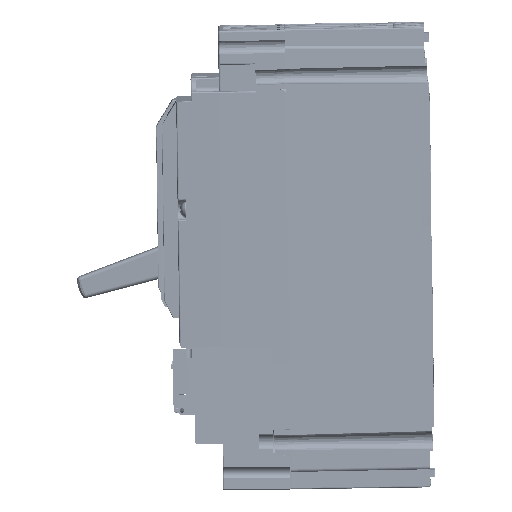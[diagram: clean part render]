
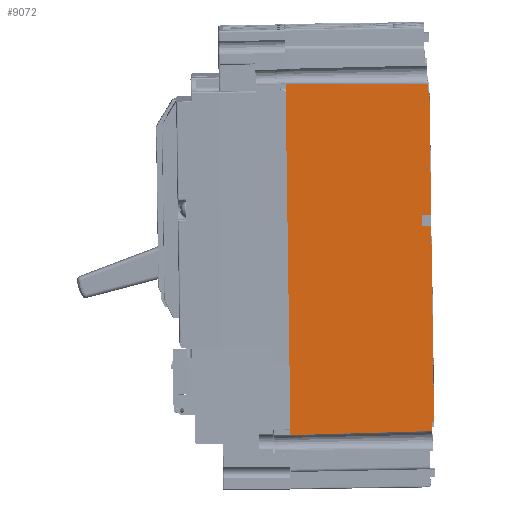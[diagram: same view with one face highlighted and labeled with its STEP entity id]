
A CAD part, left-side view. The second image highlights one B-rep face of the part: STEP entity #9072.
In plain terms, the highlighted planar face has unit normal (-1, -0.014, -0.017).
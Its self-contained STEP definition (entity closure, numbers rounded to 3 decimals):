
#9072=ADVANCED_FACE('',(#107872),#107874,.T.);
#107872=FACE_BOUND('',#107873,.T.);
#107873=EDGE_LOOP('',(#307890,#307891,#307892,#307893,#307894,#307895,#307896,#307897,
#307898,#307899,#307900,#307901,#307902,#307903));
#107874=PLANE('',#107875);
#107875=AXIS2_PLACEMENT_3D('',#107876,#107877,#107878);
#107876=CARTESIAN_POINT('',(-52.281,-0.296,-59.906));
#107877=DIRECTION('',(-1.,-0.014,-0.017));
#107878=DIRECTION('',(-0.017,0.014,1.));
#307890=ORIENTED_EDGE('',*,*,#360772,.F.);
#307891=ORIENTED_EDGE('',*,*,#360773,.F.);
#307892=ORIENTED_EDGE('',*,*,#360774,.T.);
#307893=ORIENTED_EDGE('',*,*,#360775,.T.);
#307894=ORIENTED_EDGE('',*,*,#360776,.T.);
#307895=ORIENTED_EDGE('',*,*,#360777,.F.);
#307896=ORIENTED_EDGE('',*,*,#360778,.F.);
#307897=ORIENTED_EDGE('',*,*,#360779,.T.);
#307898=ORIENTED_EDGE('',*,*,#360780,.T.);
#307899=ORIENTED_EDGE('',*,*,#360781,.F.);
#307900=ORIENTED_EDGE('',*,*,#360782,.T.);
#307901=ORIENTED_EDGE('',*,*,#360087,.T.);
#307902=ORIENTED_EDGE('',*,*,#360086,.F.);
#307903=ORIENTED_EDGE('',*,*,#357825,.T.);
#357825=EDGE_CURVE('',#385547,#386410,#386412,.T.);
#360086=EDGE_CURVE('',#385547,#384905,#390231,.T.);
#360087=EDGE_CURVE('',#390232,#384905,#390233,.T.);
#360772=EDGE_CURVE('',#391379,#386410,#391380,.T.);
#360773=EDGE_CURVE('',#391381,#391379,#391382,.T.);
#360774=EDGE_CURVE('',#391381,#391383,#391384,.T.);
#360775=EDGE_CURVE('',#391383,#391385,#391386,.T.);
#360776=EDGE_CURVE('',#391385,#391387,#391388,.T.);
#360777=EDGE_CURVE('',#391389,#391387,#391390,.T.);
#360778=EDGE_CURVE('',#391391,#391389,#391392,.T.);
#360779=EDGE_CURVE('',#391391,#391393,#391394,.T.);
#360780=EDGE_CURVE('',#391393,#391395,#391396,.T.);
#360781=EDGE_CURVE('',#391397,#391395,#391398,.T.);
#360782=EDGE_CURVE('',#391397,#390232,#391399,.T.);
#384905=VERTEX_POINT('',#431100);
#385547=VERTEX_POINT('',#432942);
#386410=VERTEX_POINT('',#435387);
#386412=LINE('',#435391,#435392);
#390231=LINE('',#449228,#449229);
#390232=VERTEX_POINT('',#449231);
#390233=B_SPLINE_CURVE_WITH_KNOTS('',3,
(#449232,#449233,#449234,#449235,#449236,#449237,#449238,#449239),
.UNSPECIFIED.,.F.,.F.,
(4,1,1,1,1,4),
(0.,0.241,0.483,0.737,0.832,1.),
.UNSPECIFIED.);
#391379=VERTEX_POINT('',#453425);
#391380=B_SPLINE_CURVE_WITH_KNOTS('',3,
(#453426,#453427,#453428,#453429,#453430,#453431),
.UNSPECIFIED.,.F.,.F.,
(4,2,4),
(0.,0.5,1.),
.UNSPECIFIED.);
#391381=VERTEX_POINT('',#453432);
#391382=B_SPLINE_CURVE_WITH_KNOTS('',3,
(#453433,#453434,#453435,#453436,#453437,#453438,#453439),
.UNSPECIFIED.,.F.,.F.,
(4,1,1,1,4),
(0.,0.241,0.483,0.737,1.),
.UNSPECIFIED.);
#391383=VERTEX_POINT('',#453440);
#391384=LINE('',#453441,#453442);
#391385=VERTEX_POINT('',#453444);
#391386=LINE('',#453445,#453446);
#391387=VERTEX_POINT('',#453448);
#391388=LINE('',#453449,#453450);
#391389=VERTEX_POINT('',#453452);
#391390=LINE('',#453453,#453454);
#391391=VERTEX_POINT('',#453456);
#391392=LINE('',#453457,#453458);
#391393=VERTEX_POINT('',#453460);
#391394=LINE('',#453461,#453462);
#391395=VERTEX_POINT('',#453464);
#391396=LINE('',#453465,#453466);
#391397=VERTEX_POINT('',#453468);
#391398=LINE('',#453469,#453470);
#391399=LINE('',#453472,#453473);
#431100=CARTESIAN_POINT('',(-54.372,1.378,59.866));
#432942=CARTESIAN_POINT('',(-54.34,1.352,58.065));
#435387=CARTESIAN_POINT('',(-52.312,-0.27,-58.106));
#435391=CARTESIAN_POINT('',(-54.34,1.352,58.065));
#435392=VECTOR('',#435393,1.);
#435393=DIRECTION('',(0.017,-0.014,-1.));
#449228=CARTESIAN_POINT('',(-54.34,1.352,58.065));
#449229=VECTOR('',#449230,1.);
#449230=DIRECTION('',(-0.017,0.014,1.));
#449231=CARTESIAN_POINT('',(-53.688,-47.027,59.915));
#449232=CARTESIAN_POINT('',(-53.688,-47.027,59.915));
#449233=CARTESIAN_POINT('',(-53.744,-43.015,59.905));
#449234=CARTESIAN_POINT('',(-53.857,-35.021,59.889));
#449235=CARTESIAN_POINT('',(-54.027,-23.026,59.872));
#449236=CARTESIAN_POINT('',(-54.16,-13.557,59.865));
#449237=CARTESIAN_POINT('',(-54.276,-5.377,59.863));
#449238=CARTESIAN_POINT('',(-54.335,-1.245,59.865));
#449239=CARTESIAN_POINT('',(-54.372,1.378,59.866));
#453425=CARTESIAN_POINT('',(-52.281,-0.295,-59.908));
#453426=CARTESIAN_POINT('',(-52.281,-0.295,-59.908));
#453427=CARTESIAN_POINT('',(-52.286,-0.291,-59.607));
#453428=CARTESIAN_POINT('',(-52.292,-0.287,-59.307));
#453429=CARTESIAN_POINT('',(-52.302,-0.278,-58.707));
#453430=CARTESIAN_POINT('',(-52.307,-0.274,-58.406));
#453431=CARTESIAN_POINT('',(-52.312,-0.27,-58.106));
#453432=CARTESIAN_POINT('',(-51.619,-48.681,-58.581));
#453433=CARTESIAN_POINT('',(-51.619,-48.681,-58.581));
#453434=CARTESIAN_POINT('',(-51.674,-44.671,-58.686));
#453435=CARTESIAN_POINT('',(-51.783,-36.68,-58.896));
#453436=CARTESIAN_POINT('',(-51.948,-24.689,-59.22));
#453437=CARTESIAN_POINT('',(-52.114,-12.53,-59.556));
#453438=CARTESIAN_POINT('',(-52.225,-4.401,-59.788));
#453439=CARTESIAN_POINT('',(-52.281,-0.295,-59.908));
#453440=CARTESIAN_POINT('',(-51.671,-48.64,-55.619));
#453441=CARTESIAN_POINT('',(-51.619,-48.681,-58.581));
#453442=VECTOR('',#453443,1.);
#453443=DIRECTION('',(-0.017,0.014,1.));
#453444=CARTESIAN_POINT('',(-51.662,-49.24,-55.611));
#453445=CARTESIAN_POINT('',(-51.671,-48.64,-55.619));
#453446=VECTOR('',#453447,1.);
#453447=DIRECTION('',(0.014,-1.,0.014));
#453448=CARTESIAN_POINT('',(-52.83,-48.306,11.273));
#453449=CARTESIAN_POINT('',(-51.662,-49.24,-55.611));
#453450=VECTOR('',#453451,1.);
#453451=DIRECTION('',(-0.017,0.014,1.));
#453452=CARTESIAN_POINT('',(-52.875,-45.056,11.227));
#453453=CARTESIAN_POINT('',(-52.875,-45.056,11.227));
#453454=VECTOR('',#453455,1.);
#453455=DIRECTION('',(0.014,-1.,0.014));
#453456=CARTESIAN_POINT('',(-52.941,-45.003,15.026));
#453457=CARTESIAN_POINT('',(-52.941,-45.003,15.026));
#453458=VECTOR('',#453459,1.);
#453459=DIRECTION('',(0.017,-0.014,-1.));
#453460=CARTESIAN_POINT('',(-52.896,-48.253,15.072));
#453461=CARTESIAN_POINT('',(-52.941,-45.003,15.026));
#453462=VECTOR('',#453463,1.);
#453463=DIRECTION('',(0.014,-1.,0.014));
#453464=CARTESIAN_POINT('',(-53.627,-47.668,56.961));
#453465=CARTESIAN_POINT('',(-52.896,-48.253,15.072));
#453466=VECTOR('',#453467,1.);
#453467=DIRECTION('',(-0.017,0.014,1.));
#453468=CARTESIAN_POINT('',(-53.636,-47.068,56.953));
#453469=CARTESIAN_POINT('',(-53.636,-47.068,56.953));
#453470=VECTOR('',#453471,1.);
#453471=DIRECTION('',(0.014,-1.,0.014));
#453472=CARTESIAN_POINT('',(-53.636,-47.068,56.953));
#453473=VECTOR('',#453474,1.);
#453474=DIRECTION('',(-0.017,0.014,1.));
